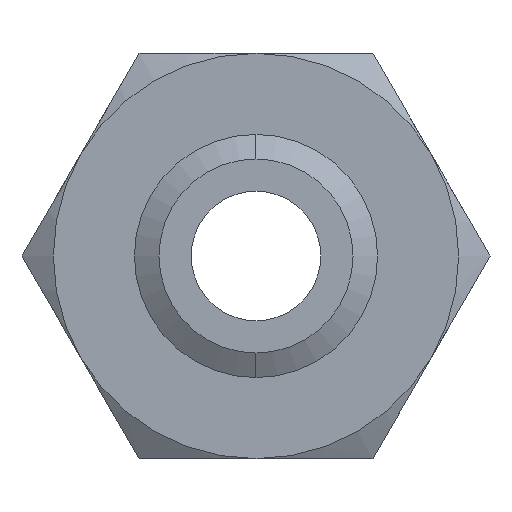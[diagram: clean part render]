
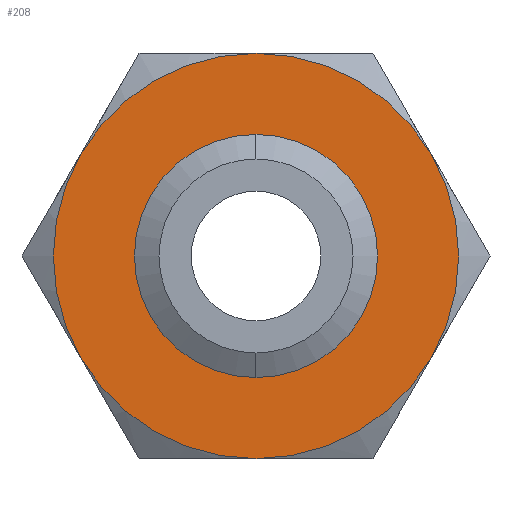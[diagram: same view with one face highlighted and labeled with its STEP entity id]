
A CAD part, front view. The second image highlights one B-rep face of the part: STEP entity #208.
In plain terms, the highlighted planar face has unit normal (0, -1, 0).
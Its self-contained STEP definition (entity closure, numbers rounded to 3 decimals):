
#141 = ORIENTED_EDGE ( 'NONE', *, *, #161, .F. ) ;
#143 = ORIENTED_EDGE ( 'NONE', *, *, #151, .F. ) ;
#150 = VERTEX_POINT ( 'NONE', #863 ) ;
#151 = EDGE_CURVE ( 'NONE', #157, #214, #862, .T. ) ;
#154 = EDGE_CURVE ( 'NONE', #156, #157, #901, .T. ) ;
#155 = EDGE_LOOP ( 'NONE', ( #2033, #262 ) ) ;
#156 = VERTEX_POINT ( 'NONE', #896 ) ;
#157 = VERTEX_POINT ( 'NONE', #895 ) ;
#158 = ORIENTED_EDGE ( 'NONE', *, *, #160, .F. ) ;
#159 = ORIENTED_EDGE ( 'NONE', *, *, #154, .F. ) ;
#160 = EDGE_CURVE ( 'NONE', #150, #156, #894, .T. ) ;
#161 = EDGE_CURVE ( 'NONE', #210, #150, #889, .T. ) ;
#208 = ADVANCED_FACE ( 'NONE', ( #946, #945 ), #944, .F. ) ;
#210 = VERTEX_POINT ( 'NONE', #998 ) ;
#211 = EDGE_CURVE ( 'NONE', #289, #210, #997, .T. ) ;
#212 = EDGE_CURVE ( 'NONE', #214, #289, #992, .T. ) ;
#213 = ORIENTED_EDGE ( 'NONE', *, *, #212, .F. ) ;
#214 = VERTEX_POINT ( 'NONE', #987 ) ;
#261 = EDGE_CURVE ( 'NONE', #467, #466, #1078, .T. ) ;
#262 = ORIENTED_EDGE ( 'NONE', *, *, #261, .F. ) ;
#289 = VERTEX_POINT ( 'NONE', #1097 ) ;
#290 = ORIENTED_EDGE ( 'NONE', *, *, #211, .F. ) ;
#295 = EDGE_LOOP ( 'NONE', ( #290, #213, #143, #159, #158, #141 ) ) ;
#465 = EDGE_CURVE ( 'NONE', #466, #467, #1504, .T. ) ;
#466 = VERTEX_POINT ( 'NONE', #1496 ) ;
#467 = VERTEX_POINT ( 'NONE', #1495 ) ;
#858 = DIRECTION ( 'NONE',  ( 0., 0., 1. ) ) ;
#859 = DIRECTION ( 'NONE',  ( 0., 1., 0. ) ) ;
#860 = CARTESIAN_POINT ( 'NONE',  ( 0., 0., 0. ) ) ;
#861 = AXIS2_PLACEMENT_3D ( 'NONE', #860, #859, #858 ) ;
#862 = CIRCLE ( 'NONE', #861, 25. ) ;
#863 = CARTESIAN_POINT ( 'NONE',  ( 21.651, 0., -12.5 ) ) ;
#885 = DIRECTION ( 'NONE',  ( 0., 0., 1. ) ) ;
#886 = DIRECTION ( 'NONE',  ( 0., 1., 0. ) ) ;
#887 = CARTESIAN_POINT ( 'NONE',  ( 0., 0., 0. ) ) ;
#888 = AXIS2_PLACEMENT_3D ( 'NONE', #887, #886, #885 ) ;
#889 = CIRCLE ( 'NONE', #888, 25. ) ;
#890 = DIRECTION ( 'NONE',  ( 0., 0., 1. ) ) ;
#891 = DIRECTION ( 'NONE',  ( 0., 1., 0. ) ) ;
#892 = CARTESIAN_POINT ( 'NONE',  ( 0., 0., 0. ) ) ;
#893 = AXIS2_PLACEMENT_3D ( 'NONE', #892, #891, #890 ) ;
#894 = CIRCLE ( 'NONE', #893, 25. ) ;
#895 = CARTESIAN_POINT ( 'NONE',  ( -21.651, 0., -12.5 ) ) ;
#896 = CARTESIAN_POINT ( 'NONE',  ( 0., 0., -25. ) ) ;
#897 = DIRECTION ( 'NONE',  ( 0., 0., 1. ) ) ;
#898 = DIRECTION ( 'NONE',  ( 0., 1., 0. ) ) ;
#899 = CARTESIAN_POINT ( 'NONE',  ( 0., 0., 0. ) ) ;
#900 = AXIS2_PLACEMENT_3D ( 'NONE', #899, #898, #897 ) ;
#901 = CIRCLE ( 'NONE', #900, 25. ) ;
#940 = DIRECTION ( 'NONE',  ( 0., 0., 1. ) ) ;
#941 = DIRECTION ( 'NONE',  ( 0., 1., 0. ) ) ;
#942 = CARTESIAN_POINT ( 'NONE',  ( 14.434, 0., -25. ) ) ;
#943 = AXIS2_PLACEMENT_3D ( 'NONE', #942, #941, #940 ) ;
#944 = PLANE ( 'NONE',  #943 ) ;
#945 = FACE_BOUND ( 'NONE', #155, .T. ) ;
#946 = FACE_OUTER_BOUND ( 'NONE', #295, .T. ) ;
#987 = CARTESIAN_POINT ( 'NONE',  ( -21.651, 0., 12.5 ) ) ;
#988 = DIRECTION ( 'NONE',  ( 0., 0., 1. ) ) ;
#989 = DIRECTION ( 'NONE',  ( 0., 1., 0. ) ) ;
#990 = CARTESIAN_POINT ( 'NONE',  ( 0., 0., 0. ) ) ;
#991 = AXIS2_PLACEMENT_3D ( 'NONE', #990, #989, #988 ) ;
#992 = CIRCLE ( 'NONE', #991, 25. ) ;
#993 = DIRECTION ( 'NONE',  ( 0., 0., 1. ) ) ;
#994 = DIRECTION ( 'NONE',  ( 0., 1., 0. ) ) ;
#995 = CARTESIAN_POINT ( 'NONE',  ( 0., 0., 0. ) ) ;
#996 = AXIS2_PLACEMENT_3D ( 'NONE', #995, #994, #993 ) ;
#997 = CIRCLE ( 'NONE', #996, 25. ) ;
#998 = CARTESIAN_POINT ( 'NONE',  ( 21.651, 0., 12.5 ) ) ;
#1074 = DIRECTION ( 'NONE',  ( 0., 0., -1. ) ) ;
#1075 = DIRECTION ( 'NONE',  ( 0., -1., 0. ) ) ;
#1076 = CARTESIAN_POINT ( 'NONE',  ( 0., 0., 0. ) ) ;
#1077 = AXIS2_PLACEMENT_3D ( 'NONE', #1076, #1075, #1074 ) ;
#1078 = CIRCLE ( 'NONE', #1077, 11.969 ) ;
#1097 = CARTESIAN_POINT ( 'NONE',  ( 0., 0., 25. ) ) ;
#1495 = CARTESIAN_POINT ( 'NONE',  ( 0., 0., 11.969 ) ) ;
#1496 = CARTESIAN_POINT ( 'NONE',  ( 0., 0., -11.969 ) ) ;
#1497 = DIRECTION ( 'NONE',  ( 0., 0., -1. ) ) ;
#1498 = DIRECTION ( 'NONE',  ( 0., -1., 0. ) ) ;
#1499 = CARTESIAN_POINT ( 'NONE',  ( 0., 0., 0. ) ) ;
#1500 = AXIS2_PLACEMENT_3D ( 'NONE', #1499, #1498, #1497 ) ;
#1504 = CIRCLE ( 'NONE', #1500, 11.969 ) ;
#2033 = ORIENTED_EDGE ( 'NONE', *, *, #465, .F. ) ;
